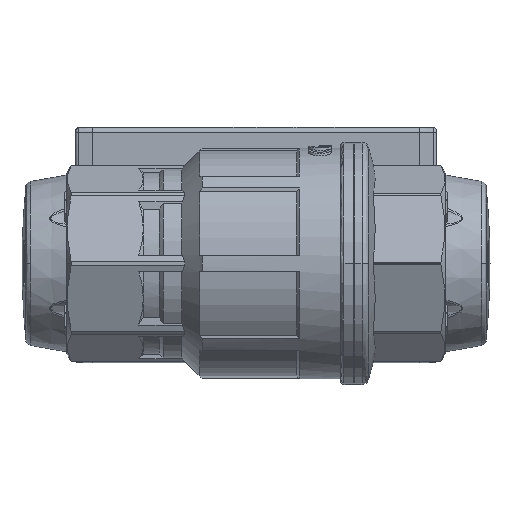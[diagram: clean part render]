
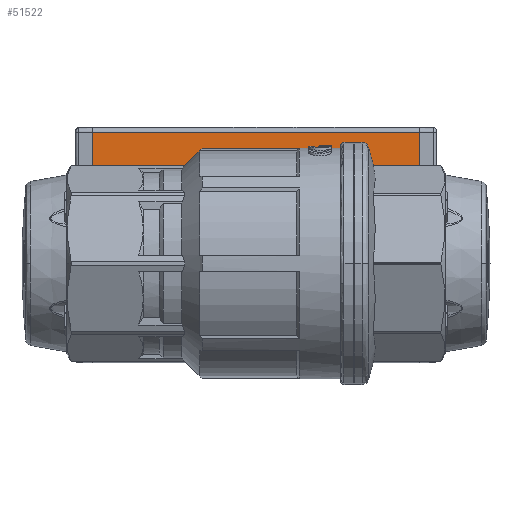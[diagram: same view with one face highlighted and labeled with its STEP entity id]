
A CAD part, front view. The second image highlights one B-rep face of the part: STEP entity #51522.
In plain terms, the highlighted planar face has unit normal (0, -1, 0).
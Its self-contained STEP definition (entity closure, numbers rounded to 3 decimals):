
#4609 = LINE ( 'NONE', #135083, #54557 ) ;
#12007 = VERTEX_POINT ( 'NONE', #114833 ) ;
#19945 = PLANE ( 'NONE',  #42210 ) ;
#20407 = CARTESIAN_POINT ( 'NONE',  ( -49.3, 70.5, 26.5 ) ) ;
#21703 = VECTOR ( 'NONE', #117295, 1000. ) ;
#31106 = DIRECTION ( 'NONE',  ( 1., 0., 0. ) ) ;
#42210 = AXIS2_PLACEMENT_3D ( 'NONE', #20407, #94801, #31106 ) ;
#42719 = CARTESIAN_POINT ( 'NONE',  ( -49.3, 70.5, 26.5 ) ) ;
#45301 = VERTEX_POINT ( 'NONE', #134930 ) ;
#46090 = EDGE_CURVE ( 'NONE', #12007, #72257, #131507, .T. ) ;
#51522 = ADVANCED_FACE ( 'NONE', ( #86940 ), #19945, .T. ) ;
#52898 = CARTESIAN_POINT ( 'NONE',  ( 49.3, 70.5, 26.5 ) ) ;
#53542 = CARTESIAN_POINT ( 'NONE',  ( -49.3, 70.5, 33. ) ) ;
#53925 = VECTOR ( 'NONE', #70831, 1000. ) ;
#54557 = VECTOR ( 'NONE', #82107, 1000. ) ;
#55160 = DIRECTION ( 'NONE',  ( 0., 0., 1. ) ) ;
#59280 = CARTESIAN_POINT ( 'NONE',  ( 0., 70.5, 39.5 ) ) ;
#60449 = EDGE_CURVE ( 'NONE', #99285, #45301, #65433, .T. ) ;
#65433 = LINE ( 'NONE', #129476, #93741 ) ;
#68328 = ORIENTED_EDGE ( 'NONE', *, *, #100484, .T. ) ;
#70831 = DIRECTION ( 'NONE',  ( -1., 0., 0. ) ) ;
#72257 = VERTEX_POINT ( 'NONE', #42719 ) ;
#82107 = DIRECTION ( 'NONE',  ( -1., 0., 0. ) ) ;
#82167 = LINE ( 'NONE', #59280, #53925 ) ;
#82684 = EDGE_LOOP ( 'NONE', ( #68328, #102992, #120130, #131071 ) ) ;
#86940 = FACE_OUTER_BOUND ( 'NONE', #82684, .T. ) ;
#93741 = VECTOR ( 'NONE', #55160, 1000. ) ;
#94801 = DIRECTION ( 'NONE',  ( 0., -1., 0. ) ) ;
#99285 = VERTEX_POINT ( 'NONE', #52898 ) ;
#100484 = EDGE_CURVE ( 'NONE', #45301, #12007, #82167, .T. ) ;
#102992 = ORIENTED_EDGE ( 'NONE', *, *, #46090, .T. ) ;
#114833 = CARTESIAN_POINT ( 'NONE',  ( -49.3, 70.5, 39.5 ) ) ;
#117295 = DIRECTION ( 'NONE',  ( 0., 0., -1. ) ) ;
#120130 = ORIENTED_EDGE ( 'NONE', *, *, #124761, .F. ) ;
#124761 = EDGE_CURVE ( 'NONE', #99285, #72257, #4609, .T. ) ;
#129476 = CARTESIAN_POINT ( 'NONE',  ( 49.3, 70.5, 33. ) ) ;
#131071 = ORIENTED_EDGE ( 'NONE', *, *, #60449, .T. ) ;
#131507 = LINE ( 'NONE', #53542, #21703 ) ;
#134930 = CARTESIAN_POINT ( 'NONE',  ( 49.3, 70.5, 39.5 ) ) ;
#135083 = CARTESIAN_POINT ( 'NONE',  ( 0., 70.5, 26.5 ) ) ;
